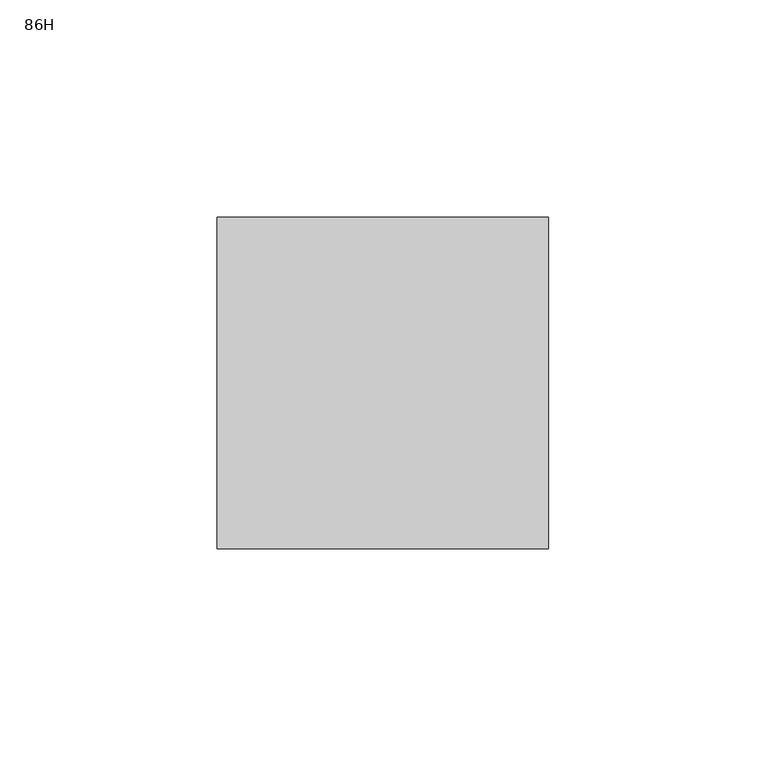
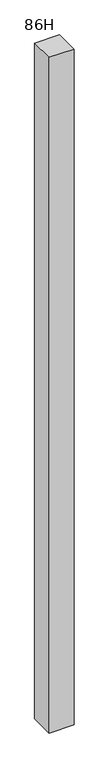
"""IFC4 building model written with IfcOpenShell, lengths in millimetres: furniture geometry, Steelcase - Montage - Junction - I - Same-Height : 86H."""

from ifc_helpers import new_model, si_unit, frame, origin, place, context, project, spatial, polyline, outline, extrude, source, transform, mapped, element, save


def furniture_86h_a120e0e9(model_context):
    return source(origin(), model_context, "Body", "SweptSolid", [
        extrude(outline(polyline([(533.4, 38.1000015), (533.4, -38.1000015), (457.2, -38.1000015), (457.2, 38.1000015), (533.4, 38.1000015)])), frame((0.0, 0.0, 3.9624), z_axis=(0.0, 0.0, 1.0), x_axis=(1.0, 0.0, 0.0)), (0.0, 0.0, 1.0), 2180.4376),
    ])


if __name__ == "__main__":
    model = new_model("IFC4")
    model_context = context("Model", 3, world=origin())
    ifc_project = project(units=[si_unit("LENGTHUNIT", "METRE", prefix="MILLI")], contexts=[model_context])
    site = spatial("IfcSite", under=ifc_project)
    building = spatial("IfcBuilding", under=site)
    placement = place(None, origin())
    furniture_86h_shape = furniture_86h_a120e0e9(model_context)
    element("IfcFurniture", 1, ObjectType="Steelcase - Montage - Junction - I - Same-Height : 86H", at=placement, inside=building, context=model_context, shape_type="MappedRepresentation", body=[
        mapped(furniture_86h_shape, transform((0.0, 0.0, 0.0), x_axis=(1.0, 0.0, 0.0), y_axis=(0.0, 1.0, 0.0), z_axis=(0.0, 0.0, 1.0))),
    ])
    save(model, "model.ifc")
